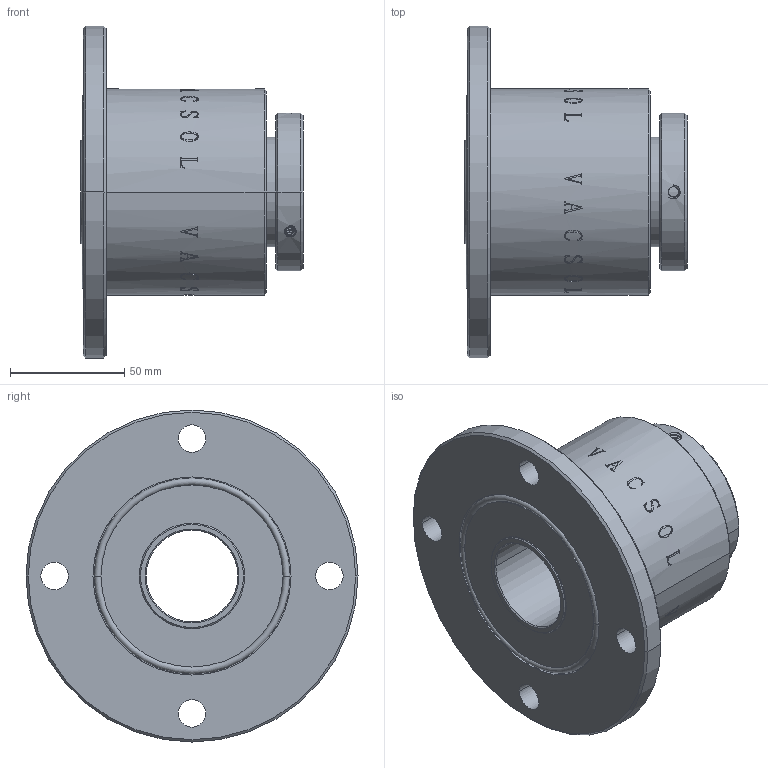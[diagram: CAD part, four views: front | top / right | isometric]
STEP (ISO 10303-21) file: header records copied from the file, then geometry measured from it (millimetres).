
FILE_DESCRIPTION (( 'STEP AP214' ), '1' );
FILE_NAME ('m40.STEP', '2010-08-26T12:37:29', ( 'user' ), ( '' ), 'SwSTEP 2.0', 'SolidWorks 2007', '' );
FILE_SCHEMA (( 'AUTOMOTIVE_DESIGN' ));
Length unit declared in the file: millimetre
Products named in the file (1): m40
Bounding box: 97 x 145 x 145 mm (x, y, z)
Volume: 534748.4 mm3; surface area: 81719 mm2
Topology: 2 solids, 2 shells, 450 faces, 1224 edges, 808 vertices
Faces by surface type: bspline 264, cylinder 101, plane 61, cone 20, torus 4
Entity records: 54730 total; most frequent: CARTESIAN_POINT 42380, ORIENTED_EDGE 2448, EDGE_CURVE 1224, B_SPLINE_CURVE_WITH_KNOTS 826, VERTEX_POINT 808, DIRECTION 804, EDGE_LOOP 498, ADVANCED_FACE 450
